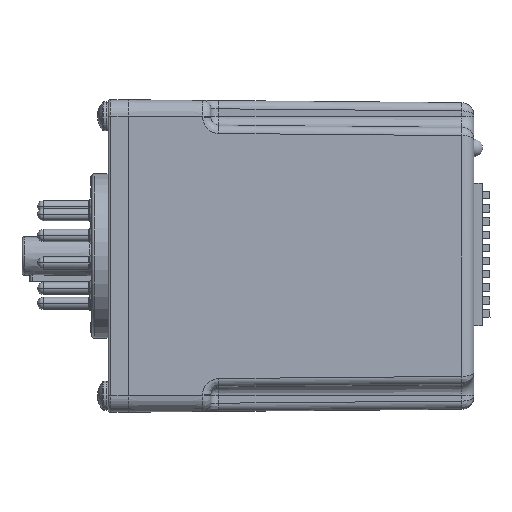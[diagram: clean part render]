
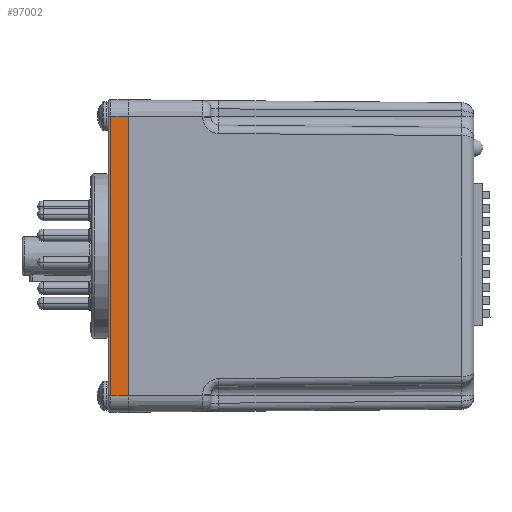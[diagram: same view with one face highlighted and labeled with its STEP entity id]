
A CAD part, left-side view. The second image highlights one B-rep face of the part: STEP entity #97002.
In plain terms, the highlighted planar face has unit normal (-1, 0, 0).
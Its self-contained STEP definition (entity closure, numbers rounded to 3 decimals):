
#75119 = CYLINDRICAL_SURFACE('',#75120,0.508);
#75120 = AXIS2_PLACEMENT_3D('',#75121,#75122,#75123);
#75121 = CARTESIAN_POINT('',(-21.717,88.951,-30.163));
#75122 = DIRECTION('',(0.,0.,1.));
#75123 = DIRECTION('',(1.,0.,0.));
#75706 = PLANE('',#75707);
#75707 = AXIS2_PLACEMENT_3D('',#75708,#75709,#75710);
#75708 = CARTESIAN_POINT('',(-22.225,85.496,-30.163));
#75709 = DIRECTION('',(0.,1.,0.));
#75710 = DIRECTION('',(1.,0.,-0.));
#82195 = VERTEX_POINT('',#82196);
#82196 = CARTESIAN_POINT('',(-22.225,85.496,26.988));
#82215 = CYLINDRICAL_SURFACE('',#82216,3.175);
#82216 = AXIS2_PLACEMENT_3D('',#82217,#82218,#82219);
#82217 = CARTESIAN_POINT('',(-19.05,85.496,26.988));
#82218 = DIRECTION('',(0.,1.,0.));
#82219 = DIRECTION('',(0.,0.,-1.));
#82227 = EDGE_CURVE('',#82228,#82195,#82230,.T.);
#82228 = VERTEX_POINT('',#82229);
#82229 = CARTESIAN_POINT('',(-22.225,85.496,-26.988));
#82230 = SURFACE_CURVE('',#82231,(#82235,#82242),.PCURVE_S1.);
#82231 = LINE('',#82232,#82233);
#82232 = CARTESIAN_POINT('',(-22.225,85.496,-30.163));
#82233 = VECTOR('',#82234,1.);
#82234 = DIRECTION('',(0.,-0.,1.));
#82235 = PCURVE('',#75706,#82236);
#82236 = DEFINITIONAL_REPRESENTATION('',(#82237),#82241);
#82237 = LINE('',#82238,#82239);
#82238 = CARTESIAN_POINT('',(0.,0.));
#82239 = VECTOR('',#82240,1.);
#82240 = DIRECTION('',(0.,-1.));
#82241 = ( GEOMETRIC_REPRESENTATION_CONTEXT(2) 
PARAMETRIC_REPRESENTATION_CONTEXT() REPRESENTATION_CONTEXT('2D SPACE',''
  ) );
#82242 = PCURVE('',#82243,#82248);
#82243 = PLANE('',#82244);
#82244 = AXIS2_PLACEMENT_3D('',#82245,#82246,#82247);
#82245 = CARTESIAN_POINT('',(-22.225,85.496,-30.163));
#82246 = DIRECTION('',(1.,0.,0.));
#82247 = DIRECTION('',(0.,0.,-1.));
#82248 = DEFINITIONAL_REPRESENTATION('',(#82249),#82253);
#82249 = LINE('',#82250,#82251);
#82250 = CARTESIAN_POINT('',(0.,0.));
#82251 = VECTOR('',#82252,1.);
#82252 = DIRECTION('',(-1.,0.));
#82253 = ( GEOMETRIC_REPRESENTATION_CONTEXT(2) 
PARAMETRIC_REPRESENTATION_CONTEXT() REPRESENTATION_CONTEXT('2D SPACE',''
  ) );
#82274 = CYLINDRICAL_SURFACE('',#82275,3.175);
#82275 = AXIS2_PLACEMENT_3D('',#82276,#82277,#82278);
#82276 = CARTESIAN_POINT('',(-19.05,89.459,-26.988));
#82277 = DIRECTION('',(0.,-1.,0.));
#82278 = DIRECTION('',(0.,0.,1.));
#97002 = ADVANCED_FACE('',(#97003),#82243,.F.);
#97003 = FACE_BOUND('',#97004,.T.);
#97004 = EDGE_LOOP('',(#97005,#97028,#97051,#97072));
#97005 = ORIENTED_EDGE('',*,*,#97006,.T.);
#97006 = EDGE_CURVE('',#82195,#97007,#97009,.T.);
#97007 = VERTEX_POINT('',#97008);
#97008 = CARTESIAN_POINT('',(-22.225,88.951,26.988));
#97009 = SURFACE_CURVE('',#97010,(#97014,#97021),.PCURVE_S1.);
#97010 = LINE('',#97011,#97012);
#97011 = CARTESIAN_POINT('',(-22.225,85.496,26.988));
#97012 = VECTOR('',#97013,1.);
#97013 = DIRECTION('',(0.,1.,0.));
#97014 = PCURVE('',#82243,#97015);
#97015 = DEFINITIONAL_REPRESENTATION('',(#97016),#97020);
#97016 = LINE('',#97017,#97018);
#97017 = CARTESIAN_POINT('',(-57.15,0.));
#97018 = VECTOR('',#97019,1.);
#97019 = DIRECTION('',(0.,1.));
#97020 = ( GEOMETRIC_REPRESENTATION_CONTEXT(2) 
PARAMETRIC_REPRESENTATION_CONTEXT() REPRESENTATION_CONTEXT('2D SPACE',''
  ) );
#97021 = PCURVE('',#82215,#97022);
#97022 = DEFINITIONAL_REPRESENTATION('',(#97023),#97027);
#97023 = LINE('',#97024,#97025);
#97024 = CARTESIAN_POINT('',(1.571,0.));
#97025 = VECTOR('',#97026,1.);
#97026 = DIRECTION('',(0.,1.));
#97027 = ( GEOMETRIC_REPRESENTATION_CONTEXT(2) 
PARAMETRIC_REPRESENTATION_CONTEXT() REPRESENTATION_CONTEXT('2D SPACE',''
  ) );
#97028 = ORIENTED_EDGE('',*,*,#97029,.T.);
#97029 = EDGE_CURVE('',#97007,#97030,#97032,.T.);
#97030 = VERTEX_POINT('',#97031);
#97031 = CARTESIAN_POINT('',(-22.225,88.951,-26.988));
#97032 = SURFACE_CURVE('',#97033,(#97037,#97044),.PCURVE_S1.);
#97033 = LINE('',#97034,#97035);
#97034 = CARTESIAN_POINT('',(-22.225,88.951,-30.163));
#97035 = VECTOR('',#97036,1.);
#97036 = DIRECTION('',(0.,0.,-1.));
#97037 = PCURVE('',#82243,#97038);
#97038 = DEFINITIONAL_REPRESENTATION('',(#97039),#97043);
#97039 = LINE('',#97040,#97041);
#97040 = CARTESIAN_POINT('',(0.,3.454));
#97041 = VECTOR('',#97042,1.);
#97042 = DIRECTION('',(1.,0.));
#97043 = ( GEOMETRIC_REPRESENTATION_CONTEXT(2) 
PARAMETRIC_REPRESENTATION_CONTEXT() REPRESENTATION_CONTEXT('2D SPACE',''
  ) );
#97044 = PCURVE('',#75119,#97045);
#97045 = DEFINITIONAL_REPRESENTATION('',(#97046),#97050);
#97046 = LINE('',#97047,#97048);
#97047 = CARTESIAN_POINT('',(3.142,0.));
#97048 = VECTOR('',#97049,1.);
#97049 = DIRECTION('',(0.,-1.));
#97050 = ( GEOMETRIC_REPRESENTATION_CONTEXT(2) 
PARAMETRIC_REPRESENTATION_CONTEXT() REPRESENTATION_CONTEXT('2D SPACE',''
  ) );
#97051 = ORIENTED_EDGE('',*,*,#97052,.T.);
#97052 = EDGE_CURVE('',#97030,#82228,#97053,.T.);
#97053 = SURFACE_CURVE('',#97054,(#97058,#97065),.PCURVE_S1.);
#97054 = LINE('',#97055,#97056);
#97055 = CARTESIAN_POINT('',(-22.225,85.496,-26.988));
#97056 = VECTOR('',#97057,1.);
#97057 = DIRECTION('',(0.,-1.,0.));
#97058 = PCURVE('',#82243,#97059);
#97059 = DEFINITIONAL_REPRESENTATION('',(#97060),#97064);
#97060 = LINE('',#97061,#97062);
#97061 = CARTESIAN_POINT('',(-3.175,0.));
#97062 = VECTOR('',#97063,1.);
#97063 = DIRECTION('',(0.,-1.));
#97064 = ( GEOMETRIC_REPRESENTATION_CONTEXT(2) 
PARAMETRIC_REPRESENTATION_CONTEXT() REPRESENTATION_CONTEXT('2D SPACE',''
  ) );
#97065 = PCURVE('',#82274,#97066);
#97066 = DEFINITIONAL_REPRESENTATION('',(#97067),#97071);
#97067 = LINE('',#97068,#97069);
#97068 = CARTESIAN_POINT('',(1.571,3.962));
#97069 = VECTOR('',#97070,1.);
#97070 = DIRECTION('',(0.,1.));
#97071 = ( GEOMETRIC_REPRESENTATION_CONTEXT(2) 
PARAMETRIC_REPRESENTATION_CONTEXT() REPRESENTATION_CONTEXT('2D SPACE',''
  ) );
#97072 = ORIENTED_EDGE('',*,*,#82227,.T.);
